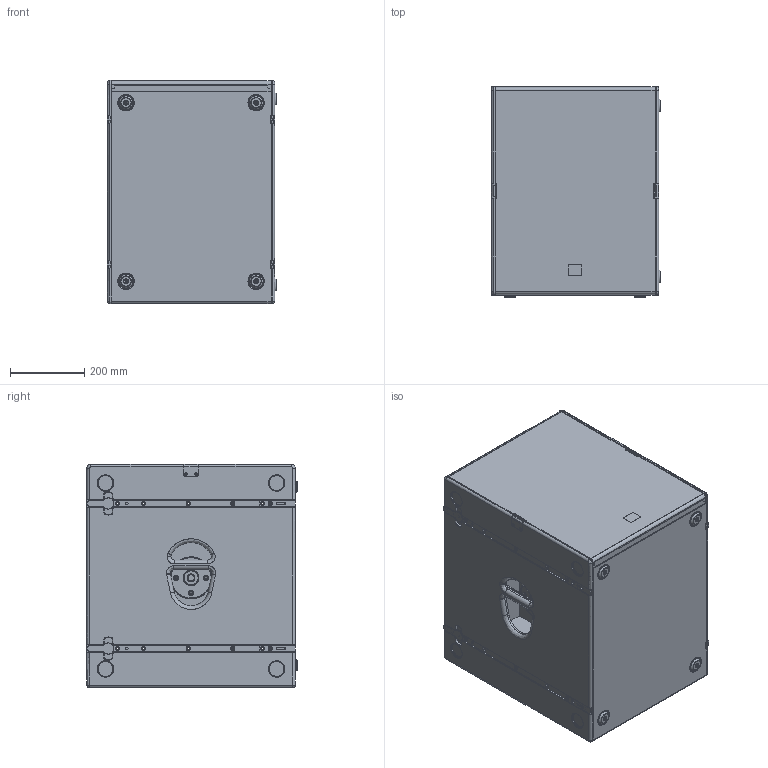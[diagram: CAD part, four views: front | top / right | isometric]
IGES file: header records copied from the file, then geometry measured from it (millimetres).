
Start section: SolidWorks IGES file using analytic representation for surfaces
Global section: file name: C:\Documents and Settings\Administrator\Desktop\Dateien-für-Internet\SEEBURG_Galeo-T-Sub.IGS; native system: SolidWorks 2009; preprocessor: SolidWorks 2009; author: Administrator; date: 160225.104046; units: millimetre
Bounding box: 455 x 565 x 600 mm (x, y, z)
Surface area: 4143132.4 mm2 (no closed solid volume)
Topology: 0 solids, 0 shells, 1775 faces, 26839 edges, 26827 vertices
Faces by surface type: revolution 970, bspline 805
